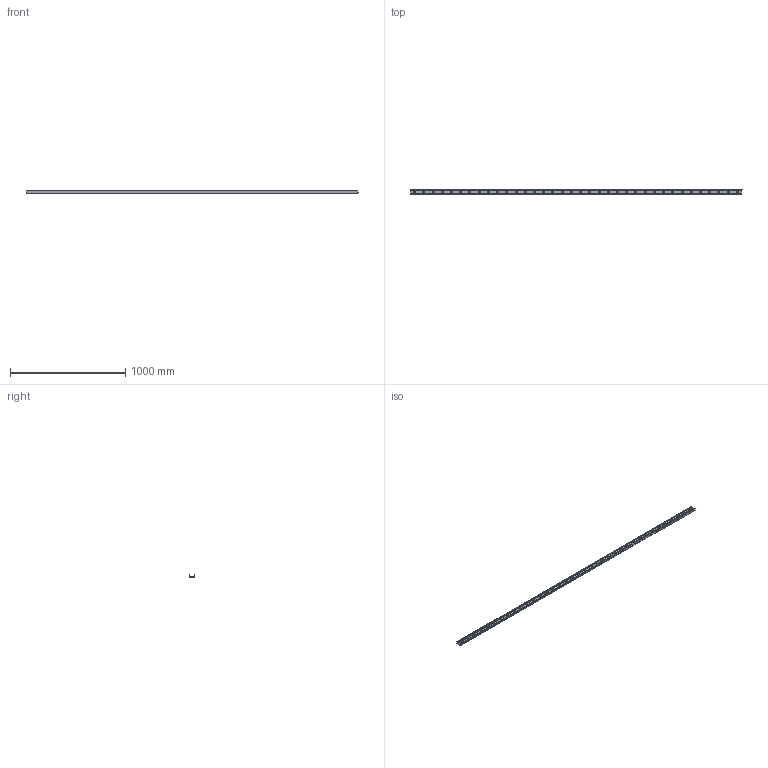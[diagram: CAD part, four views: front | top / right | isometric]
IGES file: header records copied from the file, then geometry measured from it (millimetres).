
Start section: SolidWorks IGES file using analytic representation for surfaces
Global section: file name: C:\Users\IanO\Desktop\43\L1943.ULC43_v2_20180121_IGES\L1943.ULC43-2880.igs; native system: SolidWorks 2017; preprocessor: SolidWorks 2017; author: IanO; date: 190121.085127; units: millimetre
Bounding box: 2880 x 43 x 21 mm (x, y, z)
Surface area: 451665.5 mm2 (no closed solid volume)
Topology: 0 solids, 0 shells, 206 faces, 5478 edges, 5478 vertices
Faces by surface type: revolution 157, bspline 49
